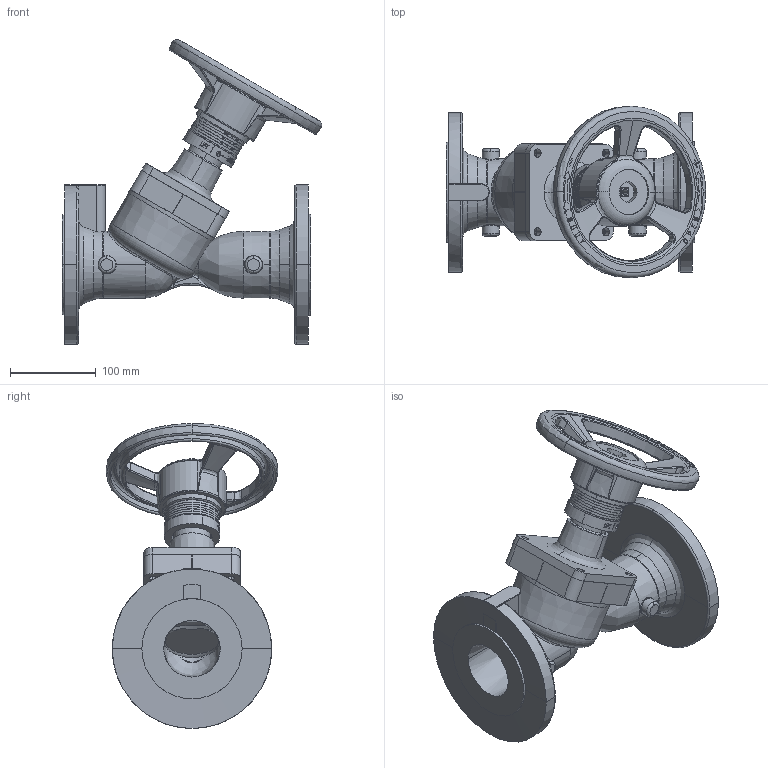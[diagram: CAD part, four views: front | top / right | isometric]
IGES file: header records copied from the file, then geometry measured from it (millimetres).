
Global section: file name: No Iges File Name specified; native system: AutoDesk Inventor R12.0; preprocessor: AutoDesk Inventor Iges Exporter R12.0; date: 20110224.155048; units: millimetre
Bounding box: 302.41 x 200.2 x 355.69 mm (x, y, z)
Volume: 2655740.5 mm3; surface area: 381822.8 mm2
Topology: 1 solids, 1 shells, 873 faces, 2321 edges, 1493 vertices
Faces by surface type: plane 302, bspline 274, cylinder 118, revolution 78, torus 59, cone 42
